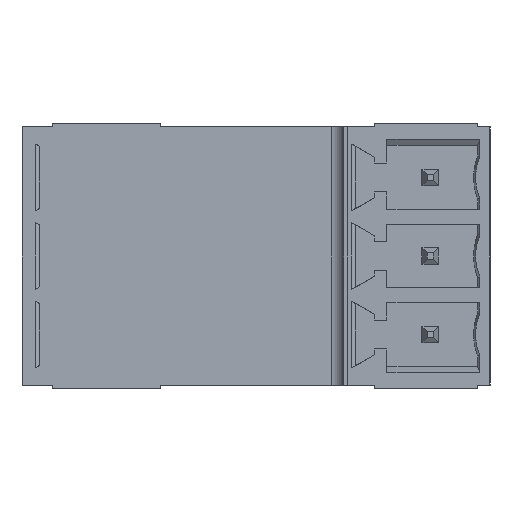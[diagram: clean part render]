
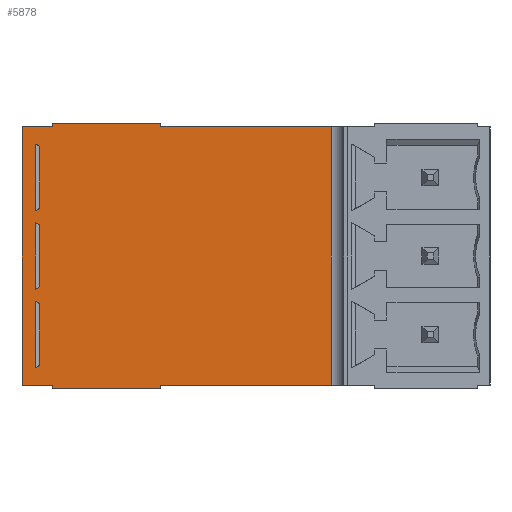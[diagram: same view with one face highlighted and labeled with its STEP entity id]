
A CAD part, left-side view. The second image highlights one B-rep face of the part: STEP entity #5878.
In plain terms, the highlighted planar face has unit normal (-1, 0, 0).
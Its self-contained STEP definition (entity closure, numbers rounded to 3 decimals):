
#1153=DIRECTION('',(0.,0.,-1.));
#1154=VECTOR('',#1153,12.52);
#1155=CARTESIAN_POINT('',(12.8,7.774,-16.454));
#1156=LINE('',#1155,#1154);
#1157=DIRECTION('',(0.,1.,0.));
#1158=VECTOR('',#1157,8.3);
#1159=CARTESIAN_POINT('',(12.8,7.774,-28.974));
#1160=LINE('',#1159,#1158);
#1161=DIRECTION('',(0.,0.,1.));
#1162=VECTOR('',#1161,0.15);
#1163=CARTESIAN_POINT('',(12.8,21.274,-29.124));
#1164=LINE('',#1163,#1162);
#1165=DIRECTION('',(0.,1.,0.));
#1166=VECTOR('',#1165,1.5);
#1167=CARTESIAN_POINT('',(12.8,21.274,-28.974));
#1168=LINE('',#1167,#1166);
#1169=DIRECTION('',(0.,0.,1.));
#1170=VECTOR('',#1169,12.52);
#1171=CARTESIAN_POINT('',(12.8,22.774,-28.974));
#1172=LINE('',#1171,#1170);
#1173=DIRECTION('',(0.,-1.,0.));
#1174=VECTOR('',#1173,1.5);
#1175=CARTESIAN_POINT('',(12.8,22.774,-16.454));
#1176=LINE('',#1175,#1174);
#1177=DIRECTION('',(0.,0.,-1.));
#1178=VECTOR('',#1177,0.15);
#1179=CARTESIAN_POINT('',(12.8,16.074,-16.304));
#1180=LINE('',#1179,#1178);
#1181=DIRECTION('',(0.,-1.,0.));
#1182=VECTOR('',#1181,8.3);
#1183=CARTESIAN_POINT('',(12.8,16.074,-16.454));
#1184=LINE('',#1183,#1182);
#1185=DIRECTION('',(0.,-0.866,0.5));
#1186=VECTOR('',#1185,0.231);
#1187=CARTESIAN_POINT('',(12.8,22.114,-20.519));
#1188=LINE('',#1187,#1186);
#1189=DIRECTION('',(0.,0.,-1.));
#1190=VECTOR('',#1189,3.);
#1191=CARTESIAN_POINT('',(12.8,21.914,-17.404));
#1192=LINE('',#1191,#1190);
#1193=DIRECTION('',(0.,0.866,0.5));
#1194=VECTOR('',#1193,0.231);
#1195=CARTESIAN_POINT('',(12.8,21.914,-17.404));
#1196=LINE('',#1195,#1194);
#1197=DIRECTION('',(0.,-0.866,0.5));
#1198=VECTOR('',#1197,0.231);
#1199=CARTESIAN_POINT('',(12.8,22.114,-28.139));
#1200=LINE('',#1199,#1198);
#1201=DIRECTION('',(0.,0.,-1.));
#1202=VECTOR('',#1201,3.);
#1203=CARTESIAN_POINT('',(12.8,21.914,-25.024));
#1204=LINE('',#1203,#1202);
#1205=DIRECTION('',(0.,0.866,0.5));
#1206=VECTOR('',#1205,0.231);
#1207=CARTESIAN_POINT('',(12.8,21.914,-25.024));
#1208=LINE('',#1207,#1206);
#1209=DIRECTION('',(0.,-0.866,0.5));
#1210=VECTOR('',#1209,0.231);
#1211=CARTESIAN_POINT('',(12.8,22.114,-24.329));
#1212=LINE('',#1211,#1210);
#1213=DIRECTION('',(0.,0.,-1.));
#1214=VECTOR('',#1213,3.);
#1215=CARTESIAN_POINT('',(12.8,21.914,-21.214));
#1216=LINE('',#1215,#1214);
#1217=DIRECTION('',(0.,0.866,0.5));
#1218=VECTOR('',#1217,0.231);
#1219=CARTESIAN_POINT('',(12.8,21.914,-21.214));
#1220=LINE('',#1219,#1218);
#1287=DIRECTION('',(0.,-1.,0.));
#1288=VECTOR('',#1287,5.2);
#1289=CARTESIAN_POINT('',(12.8,21.274,-29.124));
#1290=LINE('',#1289,#1288);
#1324=DIRECTION('',(0.,0.,1.));
#1325=VECTOR('',#1324,0.15);
#1326=CARTESIAN_POINT('',(12.8,16.074,-29.124));
#1327=LINE('',#1326,#1325);
#1494=DIRECTION('',(0.,0.,-1.));
#1495=VECTOR('',#1494,0.15);
#1496=CARTESIAN_POINT('',(12.8,21.274,-16.304));
#1497=LINE('',#1496,#1495);
#1567=DIRECTION('',(0.,1.,0.));
#1568=VECTOR('',#1567,5.2);
#1569=CARTESIAN_POINT('',(12.8,16.074,-16.304));
#1570=LINE('',#1569,#1568);
#1615=DIRECTION('',(0.,0.,1.));
#1616=VECTOR('',#1615,3.231);
#1617=CARTESIAN_POINT('',(12.8,22.114,-20.519));
#1618=LINE('',#1617,#1616);
#1634=DIRECTION('',(0.,0.,1.));
#1635=VECTOR('',#1634,3.231);
#1636=CARTESIAN_POINT('',(12.8,22.114,-28.139));
#1637=LINE('',#1636,#1635);
#1664=DIRECTION('',(0.,0.,1.));
#1665=VECTOR('',#1664,3.231);
#1666=CARTESIAN_POINT('',(12.8,22.114,-24.329));
#1667=LINE('',#1666,#1665);
#3325=CARTESIAN_POINT('',(12.8,16.074,-28.974));
#3326=VERTEX_POINT('',#3325);
#3327=CARTESIAN_POINT('',(12.8,7.774,-28.974));
#3328=VERTEX_POINT('',#3327);
#3361=CARTESIAN_POINT('',(12.8,22.774,-28.974));
#3362=VERTEX_POINT('',#3361);
#3363=CARTESIAN_POINT('',(12.8,21.274,-28.974));
#3364=VERTEX_POINT('',#3363);
#3369=CARTESIAN_POINT('',(12.8,21.274,-29.124));
#3370=VERTEX_POINT('',#3369);
#3371=CARTESIAN_POINT('',(12.8,22.774,-16.454));
#3372=VERTEX_POINT('',#3371);
#3373=CARTESIAN_POINT('',(12.8,21.274,-16.454));
#3374=VERTEX_POINT('',#3373);
#3375=CARTESIAN_POINT('',(12.8,21.274,-16.304));
#3376=VERTEX_POINT('',#3375);
#3377=CARTESIAN_POINT('',(12.8,16.074,-16.304));
#3378=VERTEX_POINT('',#3377);
#3379=CARTESIAN_POINT('',(12.8,16.074,-16.454));
#3380=VERTEX_POINT('',#3379);
#3381=CARTESIAN_POINT('',(12.8,7.774,-16.454));
#3382=VERTEX_POINT('',#3381);
#3383=CARTESIAN_POINT('',(12.8,16.074,-29.124));
#3384=VERTEX_POINT('',#3383);
#3385=CARTESIAN_POINT('',(12.8,22.114,-20.519));
#3386=CARTESIAN_POINT('',(12.8,22.114,-17.288));
#3387=VERTEX_POINT('',#3385);
#3388=VERTEX_POINT('',#3386);
#3389=CARTESIAN_POINT('',(12.8,22.114,-28.139));
#3390=CARTESIAN_POINT('',(12.8,22.114,-24.908));
#3391=VERTEX_POINT('',#3389);
#3392=VERTEX_POINT('',#3390);
#3393=CARTESIAN_POINT('',(12.8,22.114,-24.329));
#3394=CARTESIAN_POINT('',(12.8,22.114,-21.098));
#3395=VERTEX_POINT('',#3393);
#3396=VERTEX_POINT('',#3394);
#3971=CARTESIAN_POINT('',(12.8,21.914,-17.404));
#3972=VERTEX_POINT('',#3971);
#3973=CARTESIAN_POINT('',(12.8,21.914,-20.404));
#3974=VERTEX_POINT('',#3973);
#3979=CARTESIAN_POINT('',(12.8,21.914,-25.024));
#3980=VERTEX_POINT('',#3979);
#3981=CARTESIAN_POINT('',(12.8,21.914,-28.024));
#3982=VERTEX_POINT('',#3981);
#3987=CARTESIAN_POINT('',(12.8,21.914,-21.214));
#3988=VERTEX_POINT('',#3987);
#3989=CARTESIAN_POINT('',(12.8,21.914,-24.214));
#3990=VERTEX_POINT('',#3989);
#5820=CARTESIAN_POINT('',(12.8,22.774,
-0.374));
#5821=DIRECTION('',(-1.,0.,0.));
#5822=DIRECTION('',(0.,-1.,0.));
#5823=AXIS2_PLACEMENT_3D('',#5820,#5821,#5822);
#5824=PLANE('',#5823);
#5825=ORIENTED_EDGE('',*,*,#5811,.T.);
#5827=ORIENTED_EDGE('',*,*,#5826,.T.);
#5829=ORIENTED_EDGE('',*,*,#5828,.F.);
#5831=ORIENTED_EDGE('',*,*,#5830,.F.);
#5833=ORIENTED_EDGE('',*,*,#5832,.T.);
#5835=ORIENTED_EDGE('',*,*,#5834,.T.);
#5837=ORIENTED_EDGE('',*,*,#5836,.T.);
#5838=ORIENTED_EDGE('',*,*,#5538,.T.);
#5840=ORIENTED_EDGE('',*,*,#5839,.F.);
#5842=ORIENTED_EDGE('',*,*,#5841,.F.);
#5844=ORIENTED_EDGE('',*,*,#5843,.T.);
#5845=ORIENTED_EDGE('',*,*,#5518,.T.);
#5846=EDGE_LOOP('',(#5825,#5827,#5829,#5831,#5833,#5835,#5837,#5838,#5840,#5842,
#5844,#5845));
#5847=FACE_OUTER_BOUND('',#5846,.F.);
#5849=ORIENTED_EDGE('',*,*,#5848,.T.);
#5851=ORIENTED_EDGE('',*,*,#5850,.F.);
#5853=ORIENTED_EDGE('',*,*,#5852,.T.);
#5855=ORIENTED_EDGE('',*,*,#5854,.F.);
#5856=EDGE_LOOP('',(#5849,#5851,#5853,#5855));
#5857=FACE_BOUND('',#5856,.F.);
#5859=ORIENTED_EDGE('',*,*,#5858,.T.);
#5861=ORIENTED_EDGE('',*,*,#5860,.F.);
#5863=ORIENTED_EDGE('',*,*,#5862,.T.);
#5865=ORIENTED_EDGE('',*,*,#5864,.F.);
#5866=EDGE_LOOP('',(#5859,#5861,#5863,#5865));
#5867=FACE_BOUND('',#5866,.F.);
#5869=ORIENTED_EDGE('',*,*,#5868,.T.);
#5871=ORIENTED_EDGE('',*,*,#5870,.F.);
#5873=ORIENTED_EDGE('',*,*,#5872,.T.);
#5875=ORIENTED_EDGE('',*,*,#5874,.F.);
#5876=EDGE_LOOP('',(#5869,#5871,#5873,#5875));
#5877=FACE_BOUND('',#5876,.F.);
#5878=ADVANCED_FACE('',(#5847,#5857,#5867,#5877),#5824,.T.);
#5518=EDGE_CURVE('',#3380,#3382,#1184,.T.);
#5538=EDGE_CURVE('',#3372,#3374,#1176,.T.);
#5811=EDGE_CURVE('',#3382,#3328,#1156,.T.);
#5826=EDGE_CURVE('',#3328,#3326,#1160,.T.);
#5828=EDGE_CURVE('',#3384,#3326,#1327,.T.);
#5830=EDGE_CURVE('',#3370,#3384,#1290,.T.);
#5832=EDGE_CURVE('',#3370,#3364,#1164,.T.);
#5834=EDGE_CURVE('',#3364,#3362,#1168,.T.);
#5836=EDGE_CURVE('',#3362,#3372,#1172,.T.);
#5839=EDGE_CURVE('',#3376,#3374,#1497,.T.);
#5841=EDGE_CURVE('',#3378,#3376,#1570,.T.);
#5843=EDGE_CURVE('',#3378,#3380,#1180,.T.);
#5848=EDGE_CURVE('',#3387,#3974,#1188,.T.);
#5850=EDGE_CURVE('',#3972,#3974,#1192,.T.);
#5852=EDGE_CURVE('',#3972,#3388,#1196,.T.);
#5854=EDGE_CURVE('',#3387,#3388,#1618,.T.);
#5858=EDGE_CURVE('',#3391,#3982,#1200,.T.);
#5860=EDGE_CURVE('',#3980,#3982,#1204,.T.);
#5862=EDGE_CURVE('',#3980,#3392,#1208,.T.);
#5864=EDGE_CURVE('',#3391,#3392,#1637,.T.);
#5868=EDGE_CURVE('',#3395,#3990,#1212,.T.);
#5870=EDGE_CURVE('',#3988,#3990,#1216,.T.);
#5872=EDGE_CURVE('',#3988,#3396,#1220,.T.);
#5874=EDGE_CURVE('',#3395,#3396,#1667,.T.);
